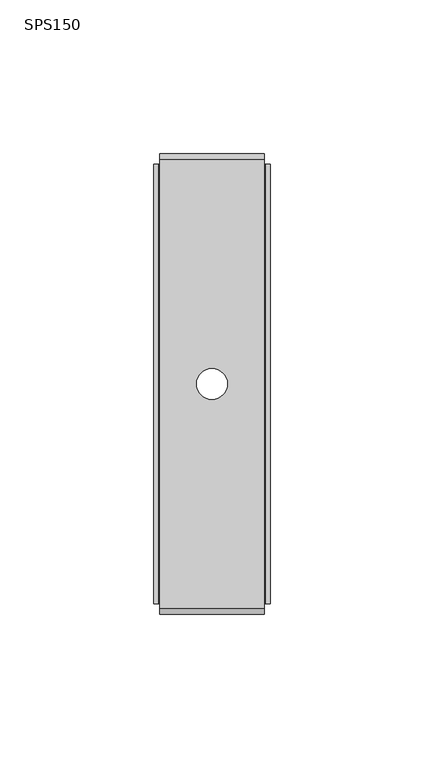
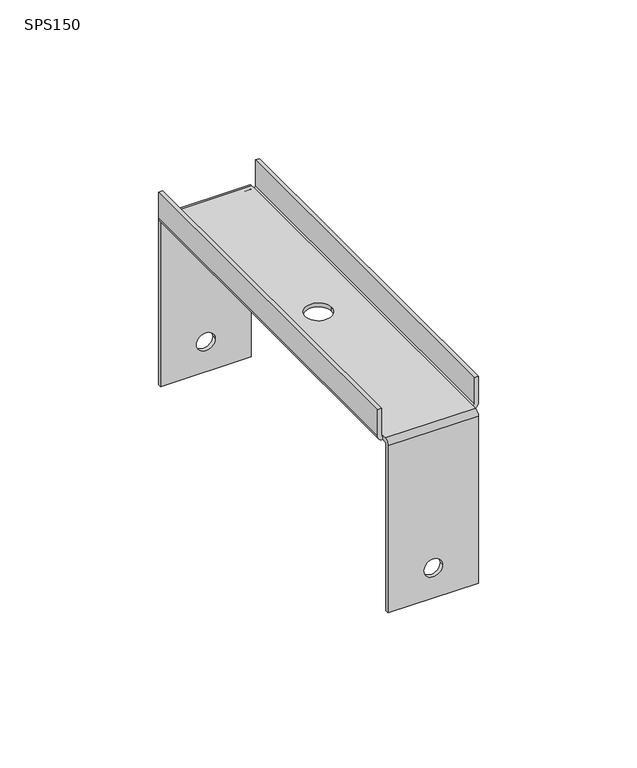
"""IFC4 building model written with IfcOpenShell, lengths in millimetres: proxy geometry, КМ Профиль_Скоба для подвеса на шпильке SPS : SPS150."""

from ifc_helpers import new_model, si_unit, frame, origin, place, context, project, spatial, polyline, circle_curve, source, transform, mapped, element, save
from ifc_brep_helpers import plane_surface, cylinder_surface, revolved_surface, advanced_brep


def sps150_d7ba73ae(model_context):
    return source(origin(), model_context, "Body", "AdvancedBrep", [
        advanced_brep(
        [(-17.0, 73.0, 0.0), (-17.0, 75.0, -2.0), (-17.0, 75.0, -68.5), (-17.0, 73.5, -68.5), (-17.0, 73.5, -2.0), (-17.0, 73.0, -1.5), (-17.0, 71.5, -1.5), (-17.0, 71.5, 0.0), (-17.0, -73.0, -1.5), (-17.0, -73.5, -2.0), (-17.0, -73.5, -68.5), (-17.0, -75.0, -68.5), (-17.0, -75.0, -2.0), (-17.0, -73.0, 0.0), (-17.0, -71.5, 0.0), (-17.0, -71.5, -1.5), (17.0, -73.0, 0.0), (17.0, -75.0, -2.0), (17.0, -75.0, -68.5), (17.0, -73.5, -68.5), (17.0, -73.5, -2.0), (17.0, -73.0, -1.5), (17.0, -71.5, -1.5), (17.0, -71.5, 0.0), (17.0, 73.0, -1.5), (17.0, 73.5, -2.0), (17.0, 73.5, -68.5), (17.0, 75.0, -68.5), (17.0, 75.0, -2.0), (17.0, 73.0, 0.0), (17.0, 71.5, 0.0), (17.0, 71.5, -1.5), (5.0, 0.0, 0.0), (0.0, -5.0, 0.0), (-5.0, 0.0, 0.0), (0.0, 5.0, 0.0), (-3.5, -73.5, -56.5), (3.5, -73.5, -56.5), (3.5, -75.0, -56.5), (-3.5, -75.0, -56.5), (5.0, 0.0, -1.5), (0.0, 5.0, -1.5), (-5.0, 0.0, -1.5), (0.0, -5.0, -1.5), (-3.5, 75.0, -56.5), (3.5, 75.0, -56.5), (3.5, 73.5, -56.5), (-3.5, 73.5, -56.5), (19.0, 71.5, 11.0), (19.0, 71.5, 0.5), (17.5, 71.5, 0.5), (17.5, 71.5, 11.0), (-19.0, 71.5, 0.5), (-19.0, 71.5, 11.0), (-17.5, 71.5, 11.0), (-17.5, 71.5, 0.5), (19.0, -71.5, 0.5), (19.0, -71.5, 11.0), (17.5, -71.5, 11.0), (17.5, -71.5, 0.5), (-17.5, -71.5, 0.5), (-17.5, -71.5, 11.0), (-19.0, -71.5, 11.0), (-19.0, -71.5, 0.5)],
        [
            (0, 1, circle_curve(frame((-17.0, 73.0, -2.0), z_axis=(-1.0, 0.0, 0.0), x_axis=(0.0, 1.0, 0.0)), 2.0)),
            (1, 2),
            (2, 3),
            (3, 4),
            (4, 5, circle_curve(frame((-17.0, 73.0, -2.0), z_axis=(1.0, 0.0, 0.0), x_axis=(0.0, 1.0, 0.0)), 0.5)),
            (5, 6),
            (6, 7),
            (7, 0),
            (8, 9, circle_curve(frame((-17.0, -73.0, -2.0), z_axis=(1.0, 0.0, 0.0), x_axis=(0.0, 1.0, 0.0)), 0.5)),
            (9, 10),
            (10, 11),
            (11, 12),
            (12, 13, circle_curve(frame((-17.0, -73.0, -2.0), z_axis=(-1.0, 0.0, 0.0), x_axis=(0.0, 1.0, 0.0)), 2.0)),
            (13, 14),
            (14, 15),
            (15, 8),
            (16, 17, circle_curve(frame((17.0, -73.0, -2.0), z_axis=(1.0, 0.0, 0.0), x_axis=(0.0, 1.0, 0.0)), 2.0)),
            (17, 18),
            (18, 19),
            (19, 20),
            (20, 21, circle_curve(frame((17.0, -73.0, -2.0), z_axis=(-1.0, 0.0, 0.0), x_axis=(0.0, 1.0, 0.0)), 0.5)),
            (21, 22),
            (22, 23),
            (23, 16),
            (24, 25, circle_curve(frame((17.0, 73.0, -2.0), z_axis=(-1.0, 0.0, 0.0), x_axis=(0.0, 1.0, 0.0)), 0.5)),
            (25, 26),
            (26, 27),
            (27, 28),
            (28, 29, circle_curve(frame((17.0, 73.0, -2.0), z_axis=(1.0, 0.0, 0.0), x_axis=(0.0, 1.0, 0.0)), 2.0)),
            (29, 30),
            (30, 31),
            (31, 24),
            (13, 16),
            (23, 30),
            (29, 0),
            (7, 14),
            (32, 33, circle_curve(frame((0.0, 0.0, 0.0), z_axis=(0.0, 0.0, -1.0), x_axis=(1.0, 0.0, 0.0)), 5.0)),
            (33, 34, circle_curve(frame((0.0, 0.0, 0.0), z_axis=(0.0, 0.0, -1.0), x_axis=(1.0, 0.0, 0.0)), 5.0)),
            (34, 35, circle_curve(frame((0.0, 0.0, 0.0), z_axis=(0.0, 0.0, -1.0), x_axis=(1.0, 0.0, 0.0)), 5.0)),
            (35, 32, circle_curve(frame((0.0, 0.0, 0.0), z_axis=(0.0, 0.0, -1.0), x_axis=(1.0, 0.0, 0.0)), 5.0)),
            (9, 20),
            (19, 10),
            (36, 37, circle_curve(frame((0.0, -73.5, -56.5), z_axis=(0.0, -1.0, 0.0), x_axis=(1.0, 0.0, 0.0)), 3.5)),
            (37, 36, circle_curve(frame((0.0, -73.5, -56.5), z_axis=(0.0, -1.0, 0.0), x_axis=(1.0, 0.0, 0.0)), 3.5)),
            (18, 11),
            (17, 12),
            (38, 39, circle_curve(frame((0.0, -75.0, -56.5), z_axis=(0.0, 1.0, 0.0), x_axis=(1.0, 0.0, 0.0)), 3.5)),
            (39, 38, circle_curve(frame((0.0, -75.0, -56.5), z_axis=(0.0, 1.0, 0.0), x_axis=(1.0, 0.0, 0.0)), 3.5)),
            (5, 24),
            (31, 22),
            (21, 8),
            (15, 6),
            (40, 41, circle_curve(frame((0.0, 0.0, -1.5), z_axis=(0.0, 0.0, 1.0), x_axis=(1.0, 0.0, 0.0)), 5.0)),
            (41, 42, circle_curve(frame((0.0, 0.0, -1.5), z_axis=(0.0, 0.0, 1.0), x_axis=(1.0, 0.0, 0.0)), 5.0)),
            (42, 43, circle_curve(frame((0.0, 0.0, -1.5), z_axis=(0.0, 0.0, 1.0), x_axis=(1.0, 0.0, 0.0)), 5.0)),
            (43, 40, circle_curve(frame((0.0, 0.0, -1.5), z_axis=(0.0, 0.0, 1.0), x_axis=(1.0, 0.0, 0.0)), 5.0)),
            (1, 28),
            (27, 2),
            (44, 45, circle_curve(frame((0.0, 75.0, -56.5), z_axis=(0.0, -1.0, 0.0), x_axis=(1.0, 0.0, 0.0)), 3.5)),
            (45, 44, circle_curve(frame((0.0, 75.0, -56.5), z_axis=(0.0, -1.0, 0.0), x_axis=(1.0, 0.0, 0.0)), 3.5)),
            (26, 3),
            (25, 4),
            (46, 47, circle_curve(frame((0.0, 73.5, -56.5), z_axis=(0.0, 1.0, 0.0), x_axis=(1.0, 0.0, 0.0)), 3.5)),
            (47, 46, circle_curve(frame((0.0, 73.5, -56.5), z_axis=(0.0, 1.0, 0.0), x_axis=(1.0, 0.0, 0.0)), 3.5)),
            (32, 40),
            (42, 34),
            (48, 49),
            (49, 31, circle_curve(frame((17.0, 71.5, 0.5), z_axis=(0.0, 1.0, 0.0), x_axis=(1.0, 0.0, 0.0)), 2.0)),
            (30, 50, circle_curve(frame((17.0, 71.5, 0.5), z_axis=(0.0, -1.0, 0.0), x_axis=(1.0, 0.0, 0.0)), 0.5)),
            (50, 51),
            (51, 48),
            (6, 52, circle_curve(frame((-17.0, 71.5, 0.5), z_axis=(0.0, 1.0, 0.0), x_axis=(1.0, 0.0, 0.0)), 2.0)),
            (52, 53),
            (53, 54),
            (54, 55),
            (55, 7, circle_curve(frame((-17.0, 71.5, 0.5), z_axis=(0.0, -1.0, 0.0), x_axis=(1.0, 0.0, 0.0)), 0.5)),
            (56, 57),
            (57, 58),
            (58, 59),
            (59, 23, circle_curve(frame((17.0, -71.5, 0.5), z_axis=(0.0, 1.0, 0.0), x_axis=(1.0, 0.0, 0.0)), 0.5)),
            (22, 56, circle_curve(frame((17.0, -71.5, 0.5), z_axis=(0.0, -1.0, 0.0), x_axis=(1.0, 0.0, 0.0)), 2.0)),
            (14, 60, circle_curve(frame((-17.0, -71.5, 0.5), z_axis=(0.0, 1.0, 0.0), x_axis=(1.0, 0.0, 0.0)), 0.5)),
            (60, 61),
            (61, 62),
            (62, 63),
            (63, 15, circle_curve(frame((-17.0, -71.5, 0.5), z_axis=(0.0, -1.0, 0.0), x_axis=(1.0, 0.0, 0.0)), 2.0)),
            (48, 57),
            (56, 49),
            (63, 52),
            (62, 53),
            (61, 54),
            (60, 55),
            (59, 50),
            (58, 51),
            (36, 39),
            (38, 37),
            (44, 47),
            (46, 45),
        ],
        [
            plane_surface(frame((-17.0, 0.0, 0.0), z_axis=(-1.0, 0.0, 0.0), x_axis=(0.0, 0.0, 1.0))),
            plane_surface(frame((17.0, 0.0, 0.0), z_axis=(1.0, 0.0, 0.0), x_axis=(0.0, 0.0, 1.0))),
            plane_surface(frame((-17.0, -73.0, 0.0), z_axis=(0.0, 0.0, 1.0), x_axis=(1.0, 0.0, 0.0))),
            plane_surface(frame((-17.0, -73.5, -2.0), z_axis=(0.0, 1.0, 0.0), x_axis=(1.0, 0.0, 0.0))),
            plane_surface(frame((-17.0, -73.5, -68.5), z_axis=(0.0, 0.0, -1.0), x_axis=(1.0, 0.0, 0.0))),
            plane_surface(frame((-17.0, -75.0, -68.5), z_axis=(0.0, -1.0, 0.0), x_axis=(1.0, 0.0, 0.0))),
            plane_surface(frame((-17.0, 73.0, -1.5), z_axis=(0.0, 0.0, -1.0), x_axis=(1.0, 0.0, 0.0))),
            plane_surface(frame((-17.0, 75.0, -2.0), z_axis=(0.0, 1.0, 0.0), x_axis=(1.0, 0.0, 0.0))),
            plane_surface(frame((-17.0, 75.0, -68.5), z_axis=(0.0, 0.0, -1.0), x_axis=(1.0, 0.0, 0.0))),
            plane_surface(frame((-17.0, 73.5, -68.5), z_axis=(0.0, -1.0, 0.0), x_axis=(1.0, 0.0, 0.0))),
            revolved_surface(polyline([(17.0, 73.5, -2.0), (-17.0, 73.5, -2.0)]), (-17.0, 73.0, -2.0), (1.0, 0.0, 0.0)),
            revolved_surface(polyline([(17.0, -72.5, -2.0), (-17.0, -72.5, -2.0)]), (-17.0, -73.0, -2.0), (1.0, 0.0, 0.0)),
            cylinder_surface(frame((-17.0, -73.0, -2.0), z_axis=(-1.0, 0.0, 0.0), x_axis=(0.0, 1.0, 0.0)), 2.0),
            cylinder_surface(frame((-17.0, 73.0, -2.0), z_axis=(-1.0, 0.0, 0.0), x_axis=(0.0, 1.0, 0.0)), 2.0),
            revolved_surface(polyline([(5.0, 0.0, 0.0), (5.0, 0.0, -1.5)]), (0.0, 0.0, -1.5), (0.0, 0.0, 1.0)),
            plane_surface(frame((0.0, 71.5, 0.0), z_axis=(0.0, 1.0, 0.0), x_axis=(0.0, 0.0, 1.0))),
            plane_surface(frame((0.0, -71.5, 0.0), z_axis=(0.0, -1.0, 0.0), x_axis=(0.0, 0.0, 1.0))),
            plane_surface(frame((19.0, 71.5, 11.0), z_axis=(1.0, 0.0, 0.0), x_axis=(0.0, -1.0, 0.0))),
            cylinder_surface(frame((17.0, 71.5, 0.5), z_axis=(0.0, 1.0, 0.0), x_axis=(1.0, 0.0, 0.0)), 2.0),
            cylinder_surface(frame((-17.0, 71.5, 0.5), z_axis=(0.0, 1.0, 0.0), x_axis=(1.0, 0.0, 0.0)), 2.0),
            plane_surface(frame((-19.0, 71.5, 0.5), z_axis=(-1.0, 0.0, 0.0), x_axis=(0.0, -1.0, 0.0))),
            plane_surface(frame((-19.0, 71.5, 11.0), z_axis=(0.0, 0.0, 1.0), x_axis=(0.0, -1.0, 0.0))),
            plane_surface(frame((-17.5, 71.5, 11.0), z_axis=(1.0, 0.0, 0.0), x_axis=(0.0, -1.0, 0.0))),
            revolved_surface(polyline([(-16.5, -71.5, 0.5), (-16.5, 71.5, 0.5)]), (-17.0, 71.5, 0.5), (0.0, -1.0, 0.0)),
            revolved_surface(polyline([(17.5, -71.5, 0.5), (17.5, 71.5, 0.5)]), (17.0, 71.5, 0.5), (0.0, -1.0, 0.0)),
            plane_surface(frame((17.5, 71.5, 0.5), z_axis=(-1.0, 0.0, 0.0), x_axis=(0.0, -1.0, 0.0))),
            plane_surface(frame((17.5, 71.5, 11.0), z_axis=(0.0, 0.0, 1.0), x_axis=(0.0, -1.0, 0.0))),
            revolved_surface(polyline([(3.5, -75.0, -56.5), (3.5, -73.5, -56.5)]), (0.0, 75.0, -56.5), (0.0, -1.0, 0.0)),
            revolved_surface(polyline([(3.5, 73.5, -56.5), (3.5, 75.0, -56.5)]), (0.0, 75.0, -56.5), (0.0, -1.0, 0.0)),
        ],
        [
            (0, [[1, 2, 3, 4, 5, 6, 7, 8]]),
            (0, [[9, 10, 11, 12, 13, 14, 15, 16]]),
            (1, [[17, 18, 19, 20, 21, 22, 23, 24]]),
            (1, [[25, 26, 27, 28, 29, 30, 31, 32]]),
            (2, [[33, -24, 34, -30, 35, -8, 36, -14], [37, 38, 39, 40]]),
            (3, [[-10, 41, -20, 42], [43, 44]]),
            (4, [[-11, -42, -19, 45]]),
            (5, [[-12, -45, -18, 46], [47, 48]]),
            (6, [[49, -32, 50, -22, 51, -16, 52, -6], [53, 54, 55, 56]]),
            (7, [[-2, 57, -28, 58], [59, 60]]),
            (8, [[-3, -58, -27, 61]]),
            (9, [[-4, -61, -26, 62], [63, 64]]),
            (10, [[-5, -62, -25, -49]]),
            (11, [[-9, -51, -21, -41]]),
            (12, [[-13, -46, -17, -33]]),
            (13, [[-1, -35, -29, -57]]),
            (14, [[65, -56, -55, 66, -38, -37]]),
            (14, [[-65, -40, -39, -66, -54, -53]]),
            (15, [[67, 68, -31, 69, 70, 71]]),
            (15, [[72, 73, 74, 75, 76, -7]]),
            (16, [[77, 78, 79, 80, -23, 81]]),
            (16, [[82, 83, 84, 85, 86, -15]]),
            (17, [[-67, 87, -77, 88]]),
            (18, [[-68, -88, -81, -50]]),
            (19, [[-72, -52, -86, 89]]),
            (20, [[-73, -89, -85, 90]]),
            (21, [[-74, -90, -84, 91]]),
            (22, [[-75, -91, -83, 92]]),
            (23, [[-76, -92, -82, -36]]),
            (24, [[-69, -34, -80, 93]]),
            (25, [[-70, -93, -79, 94]]),
            (26, [[-71, -94, -78, -87]]),
            (27, [[-43, 95, -47, 96]]),
            (28, [[-59, 97, -63, 98]]),
            (27, [[-44, -96, -48, -95]]),
            (28, [[-60, -98, -64, -97]]),
        ],
    ),
    ])


if __name__ == "__main__":
    model = new_model("IFC4")
    model_context = context("Model", 3, world=origin())
    ifc_project = project(units=[si_unit("LENGTHUNIT", "METRE", prefix="MILLI")], contexts=[model_context])
    site = spatial("IfcSite", under=ifc_project)
    building = spatial("IfcBuilding", under=site)
    placement = place(None, origin())
    sps150_shape = sps150_d7ba73ae(model_context)
    element("IfcBuildingElementProxy", 1, Name="КМ Профиль_Скоба для подвеса на шпильке SPS : SPS150", ObjectType="КМ Профиль_Скоба для подвеса на шпильке SPS : SPS150", at=placement, inside=building, context=model_context, shape_type="MappedRepresentation", body=[
        mapped(sps150_shape, transform((0.0, 0.0, 0.0), x_axis=(1.0, 0.0, 0.0), y_axis=(0.0, 1.0, 0.0), z_axis=(0.0, 0.0, 1.0))),
    ])
    save(model, "model.ifc")
